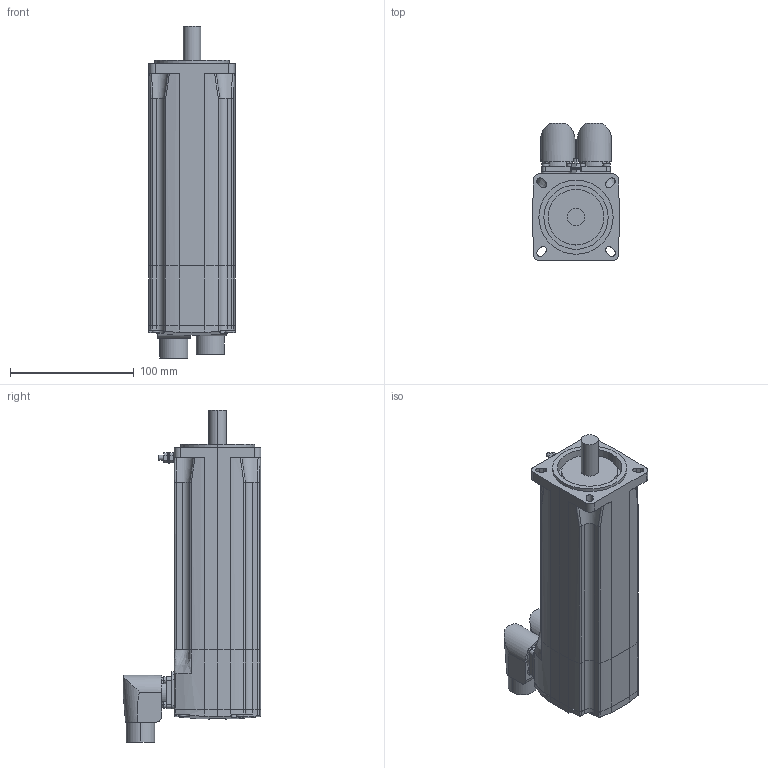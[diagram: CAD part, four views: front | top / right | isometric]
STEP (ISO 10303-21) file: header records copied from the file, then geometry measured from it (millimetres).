
FILE_DESCRIPTION (( 'STEP AP214' ), '1' );
FILE_NAME ('SH30703x0xA2100.STEP', '2013-11-29T08:00:16', ( 'Windows User' ), ( 'Schneider-Electric' ), 'SwSTEP 2.0', 'SolidWorks 2010', '' );
FILE_SCHEMA (( 'AUTOMOTIVE_DESIGN' ));
Length unit declared in the file: millimetre
Products named in the file (7): 1-100011014_K-TOPFGEHÄUSE SH3-BSH-070X_000_Topfgehäuse SH3-BSH-0703 ohne Passfeder; 1-100011011_K-ERDUNGSBOLZEN M4_000; 1-100010970_K-DECKEL MH3-070X_000_Deckel SH3-070x; 1-100008384_LAGERSCHILD SH3-070X-A_VM0_Lagerschild SH3-070x-A; K-POWER-CONINVERS-ABGEWIN_POWER-CONINVERS-ABGEWINKELT_000_ohne Bremse; K-ENCODER-CONINVERS-ABGEW_ENCODER-CONINVERS-ABGEWINKELT_000_Single- MultiTurn; SH30703x0xA2100
Assembly tree (6 placements, depth 2):
  SH30703x0xA2100
    1-100011011_K-ERDUNGSBOLZEN M4_000
    1-100011014_K-TOPFGEHÄUSE SH3-BSH-070X_000_Topfgehäuse SH3-BSH-0703 ohne Passfeder
    1-100010970_K-DECKEL MH3-070X_000_Deckel SH3-070x
    1-100008384_LAGERSCHILD SH3-070X-A_VM0_Lagerschild SH3-070x-A
    K-POWER-CONINVERS-ABGEWIN_POWER-CONINVERS-ABGEWINKELT_000_ohne Bremse
    K-ENCODER-CONINVERS-ABGEW_ENCODER-CONINVERS-ABGEWINKELT_000_Single- MultiTurn
Bounding box: 70 x 111.4 x 268.45 mm (x, y, z)
Volume: 1014067.3 mm3; surface area: 105389.8 mm2
Topology: 6 solids, 6 shells, 424 faces, 1088 edges, 720 vertices
Faces by surface type: cylinder 197, plane 171, bspline 33, torus 16, cone 5, sphere 2
Entity records: 15252 total; most frequent: CARTESIAN_POINT 4631, ORIENTED_EDGE 2176, DIRECTION 2161, EDGE_CURVE 1088, AXIS2_PLACEMENT_3D 832, VERTEX_POINT 720, LINE 497, VECTOR 497
